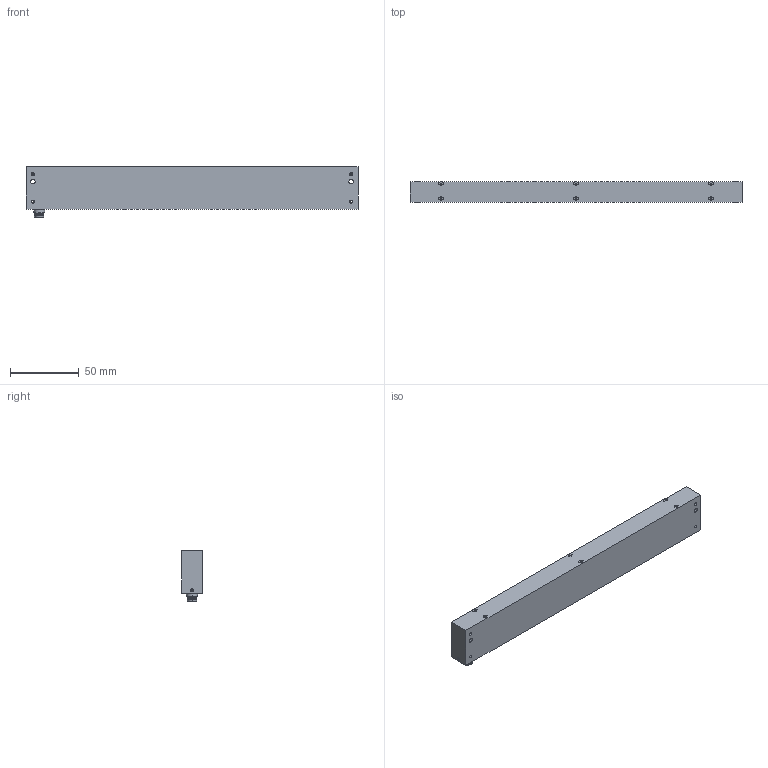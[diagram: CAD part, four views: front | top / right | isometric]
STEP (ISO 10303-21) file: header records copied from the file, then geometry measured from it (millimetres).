
FILE_DESCRIPTION(('STEP AP214'),'1');
FILE_NAME('TopLine 4TE Kundenmodell mit Front.stp','2020-04-07T13:12:07',(' '),(' '),'Spatial InterOp 3D',' ',' ');
FILE_SCHEMA(('AUTOMOTIVE_DESIGN { 1 0 10303 214 1 1 1 1 }'));
Length unit declared in the file: metre
Products named in the file (1): Volumenkörper
Bounding box: 241 x 15 x 36.98 mm (x, y, z)
Volume: 74793.6 mm3; surface area: 40615.6 mm2
Topology: 1 solids, 11 shells, 376 faces, 891 edges, 535 vertices
Faces by surface type: cylinder 136, plane 132, cone 80, sphere 16, torus 12
Entity records: 12435 total; most frequent: CARTESIAN_POINT 3006, DIRECTION 1880, ORIENTED_EDGE 1714, EDGE_CURVE 857, AXIS2_PLACEMENT_3D 719, VERTEX_POINT 535, EDGE_LOOP 444, LINE 442
